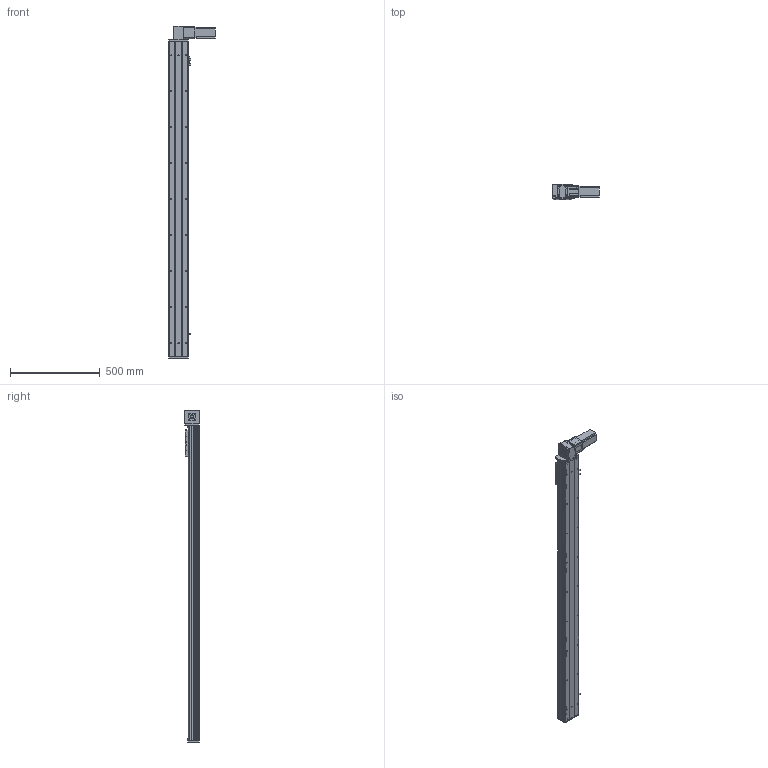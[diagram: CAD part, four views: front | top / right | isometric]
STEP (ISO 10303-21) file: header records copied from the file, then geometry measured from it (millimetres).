
FILE_DESCRIPTION (( 'STEP AP203' ), '1' );
FILE_NAME ('Y10CB-D90-S1500-BD-P400W.STEP', '2020-02-17T02:43:25', ( '微软用户' ), ( '微软中国' ), 'SwSTEP 2.0', 'SolidWorks 2017', '' );
FILE_SCHEMA (( 'CONFIG_CONTROL_DESIGN' ));
Length unit declared in the file: millimetre
Products named in the file (16): Y100-135俋离換覜ん--; 0B-源倛裔啣; Y10B--々湍喘謫眊--666; 0B-埴倛裔啣; 0B-薊粣ん眊; 10CB-詩湍-; Y10CB-D90-S1500-BD-P400W; Y10CB- 掛极耜裔啣-毀---; Y10C---詩湍揤啣; 0CB-雄赽釱---; 10CB9-掛极; 0Cb-俋欶---; 10CB-耜裔; Y10B-々湍喘謫眊楊擘啣--; Y135C-陔俋离換覜結え-; san松下电机400不带刹车----
Assembly tree (19 placements, depth 2):
  Y10CB-D90-S1500-BD-P400W
    0CB-雄赽釱---
    0Cb-俋欶---
    Y10B-々湍喘謫眊楊擘啣--
    san松下电机400不带刹车----
    0B-源倛裔啣
    0B-埴倛裔啣
    10CB-詩湍-
    Y10CB- 掛极耜裔啣-毀---  x2
    Y10C---詩湍揤啣  x2
    10CB9-掛极
    10CB-耜裔
    Y135C-陔俋离換覜結え-
    Y100-135俋离換覜ん--  x3
    Y10B--々湍喘謫眊--666
    0B-薊粣ん眊
Bounding box: 258 x 80.5 x 1846 mm (x, y, z)
Volume: 4008894.4 mm3; surface area: 1807910.7 mm2
Topology: 19 solids, 19 shells, 924 faces, 2462 edges, 1604 vertices
Faces by surface type: cylinder 460, plane 440, cone 24
Entity records: 28569 total; most frequent: CARTESIAN_POINT 5200, DIRECTION 4593, ORIENTED_EDGE 4394, EDGE_CURVE 2197, AXIS2_PLACEMENT_3D 1647, VERTEX_POINT 1430, VECTOR 1299, LINE 1299
